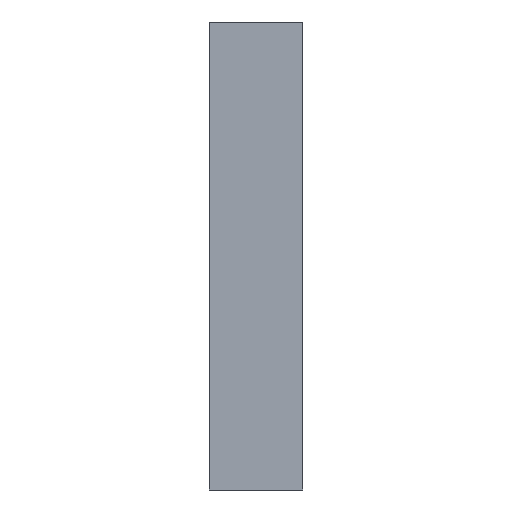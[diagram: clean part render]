
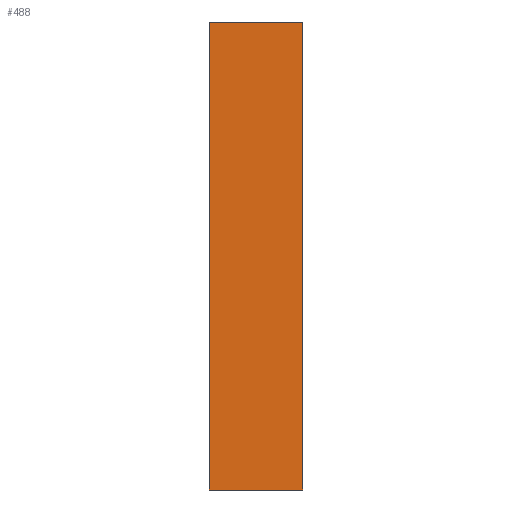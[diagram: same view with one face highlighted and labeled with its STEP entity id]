
A CAD part, front view. The second image highlights one B-rep face of the part: STEP entity #488.
In plain terms, the highlighted planar face has unit normal (0, -1, 0).
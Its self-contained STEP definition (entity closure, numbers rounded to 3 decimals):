
#19 = ORIENTED_EDGE ( 'NONE', *, *, #560, .T. ) ;
#32 = CARTESIAN_POINT ( 'NONE',  ( 100., -10., 999.8 ) ) ;
#37 = PLANE ( 'NONE',  #63 ) ;
#42 = CARTESIAN_POINT ( 'NONE',  ( 99.8, -10., 0. ) ) ;
#58 = CARTESIAN_POINT ( 'NONE',  ( 99.8, -10., 999.8 ) ) ;
#63 = AXIS2_PLACEMENT_3D ( 'NONE', #550, #678, #142 ) ;
#70 = CARTESIAN_POINT ( 'NONE',  ( 100., -10., 0. ) ) ;
#88 = ORIENTED_EDGE ( 'NONE', *, *, #430, .T. ) ;
#100 = LINE ( 'NONE', #285, #701 ) ;
#129 = LINE ( 'NONE', #32, #409 ) ;
#135 = VERTEX_POINT ( 'NONE', #422 ) ;
#142 = DIRECTION ( 'NONE',  ( -1., 0., 0. ) ) ;
#155 = DIRECTION ( 'NONE',  ( 0., 0., 1. ) ) ;
#204 = FACE_OUTER_BOUND ( 'NONE', #558, .T. ) ;
#212 = VERTEX_POINT ( 'NONE', #42 ) ;
#242 = DIRECTION ( 'NONE',  ( 1., 0., 0. ) ) ;
#285 = CARTESIAN_POINT ( 'NONE',  ( 99.8, -10., 1000. ) ) ;
#308 = CARTESIAN_POINT ( 'NONE',  ( -99.8, -10., 1000. ) ) ;
#367 = DIRECTION ( 'NONE',  ( 0., 0., -1. ) ) ;
#382 = EDGE_CURVE ( 'NONE', #135, #393, #723, .T. ) ;
#393 = VERTEX_POINT ( 'NONE', #475 ) ;
#409 = VECTOR ( 'NONE', #728, 1000. ) ;
#422 = CARTESIAN_POINT ( 'NONE',  ( -99.8, -10., 999.8 ) ) ;
#430 = EDGE_CURVE ( 'NONE', #393, #212, #595, .T. ) ;
#443 = ORIENTED_EDGE ( 'NONE', *, *, #382, .T. ) ;
#475 = CARTESIAN_POINT ( 'NONE',  ( -99.8, -10., 0. ) ) ;
#488 = ADVANCED_FACE ( 'NONE', ( #204 ), #37, .F. ) ;
#516 = EDGE_CURVE ( 'NONE', #569, #135, #129, .T. ) ;
#550 = CARTESIAN_POINT ( 'NONE',  ( 100., -10., 1000. ) ) ;
#558 = EDGE_LOOP ( 'NONE', ( #88, #19, #596, #443 ) ) ;
#560 = EDGE_CURVE ( 'NONE', #212, #569, #100, .T. ) ;
#569 = VERTEX_POINT ( 'NONE', #58 ) ;
#595 = LINE ( 'NONE', #70, #680 ) ;
#596 = ORIENTED_EDGE ( 'NONE', *, *, #516, .T. ) ;
#678 = DIRECTION ( 'NONE',  ( 0., 1., 0. ) ) ;
#680 = VECTOR ( 'NONE', #242, 1000. ) ;
#701 = VECTOR ( 'NONE', #155, 1000. ) ;
#723 = LINE ( 'NONE', #308, #753 ) ;
#728 = DIRECTION ( 'NONE',  ( -1., 0., 0. ) ) ;
#753 = VECTOR ( 'NONE', #367, 1000. ) ;
